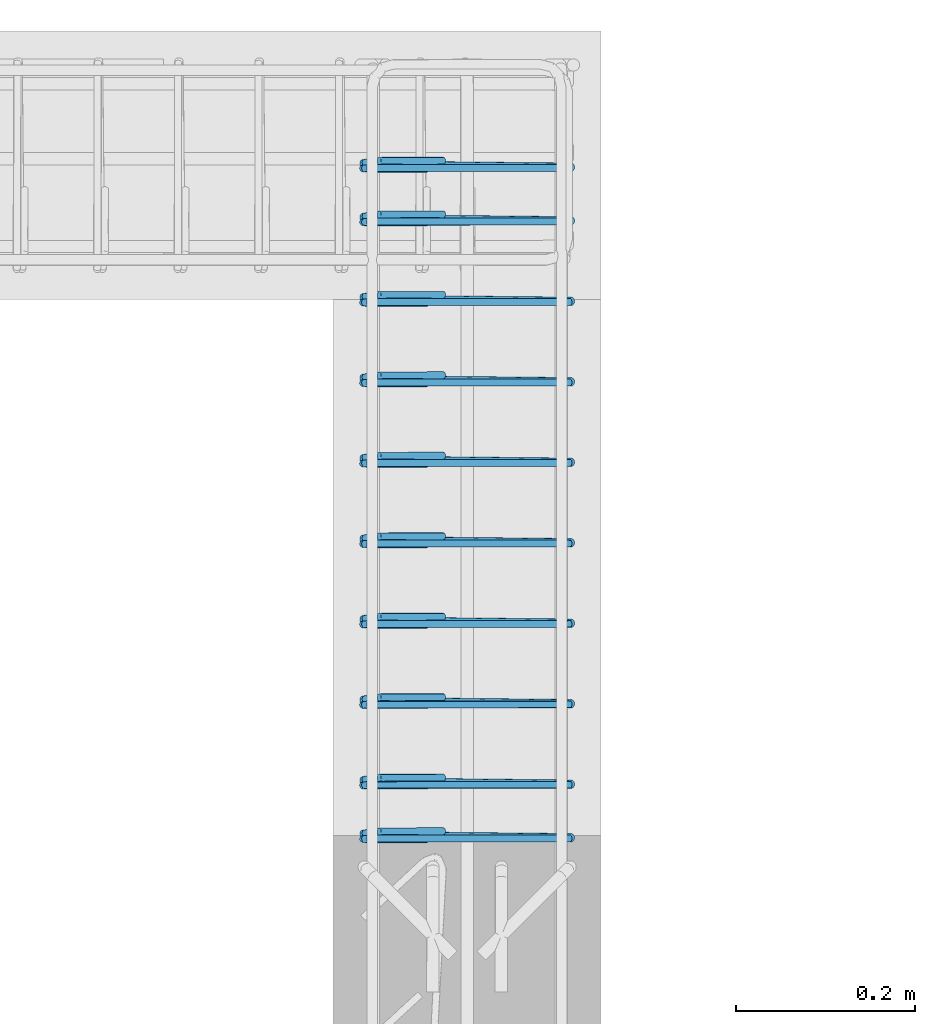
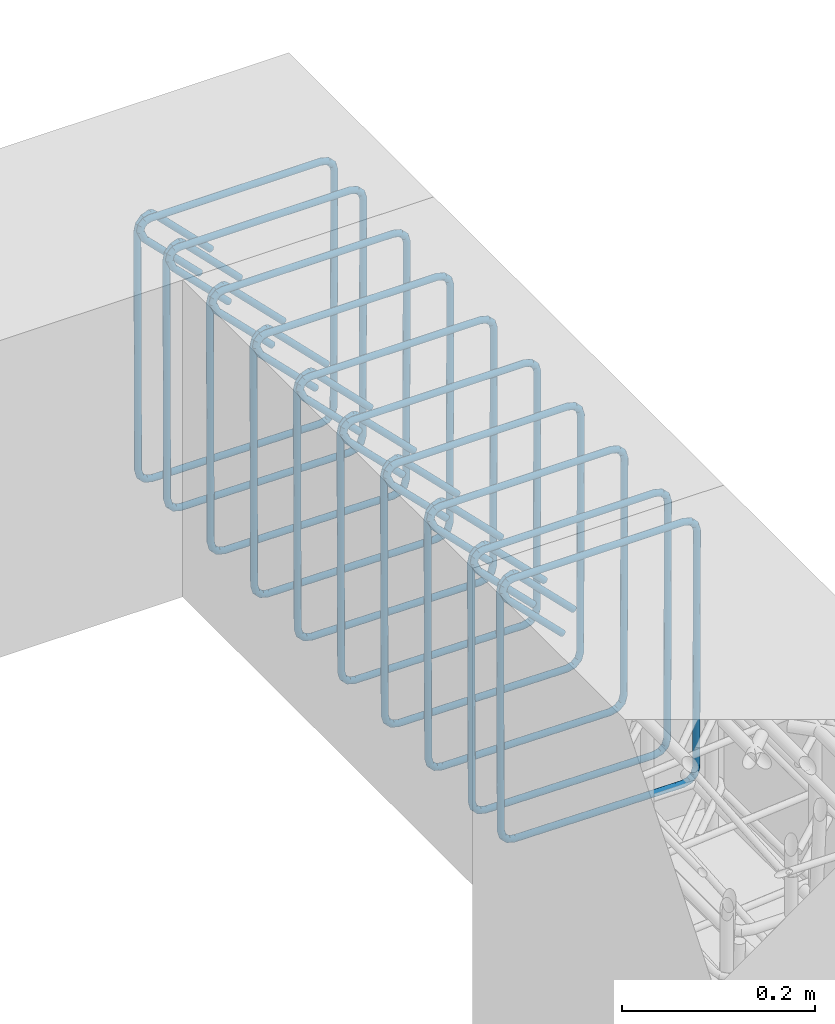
# One storey, part 24 of 24: 1 reinforcing bar.
"""IFC2X3 building model written with IfcOpenShell, lengths in metres."""

from ifc_helpers import new_model, entity, si_unit, direction, frame, origin, place, context, subcontext, project, spatial, shape, source, transform, mapped, element, save


model = new_model("IFC2X3")

# Units and contexts
model_context = context("Model", 3, precision=0.0, world=origin(), true_north=direction((0.0, 1.0)))
plan_context = context("Plan", 3, precision=0.0, world=origin(), true_north=direction((0.0, 1.0)))
body_context = subcontext(model_context, "Body", "Model", "MODEL_VIEW", scale=1.0)
ifc_project = project(units=[si_unit("LENGTHUNIT", "METRE"), si_unit("AREAUNIT", "SQUARE_METRE"), si_unit("VOLUMEUNIT", "CUBIC_METRE"), si_unit("PLANEANGLEUNIT", "RADIAN"), si_unit("THERMODYNAMICTEMPERATUREUNIT", "DEGREE_CELSIUS"), si_unit("FORCEUNIT", "NEWTON"), si_unit("MASSUNIT", "GRAM", prefix="KILO")], contexts=[model_context, plan_context])

# Site, building, storey
placement = place(None, origin())
site = spatial("IfcSite", under=ifc_project, at=placement, Name="Default Site", CompositionType="ELEMENT")
building = spatial("IfcBuilding", under=site, at=placement, Name="Default Building", CompositionType="ELEMENT")
storey_placement = place(placement, frame((0.0, 0.0, 3.3), z_axis=(1.0, 0.0, 0.0), x_axis=(0.0, 0.0, 1.0)))
storey = spatial("IfcBuildingStorey", under=building, at=storey_placement, Name="Piano 2", CompositionType="ELEMENT", Elevation=3.3)

# Reinforcing bar
shared_shape_1 = source(origin(), body_context, None, "AdvancedSweptSolid", [
    entity("IfcSweptDiskSolid", entity("IfcCompositeCurve", [entity("IfcCompositeCurveSegment", "CONTINUOUS", True, entity("IfcPolyline", [entity("IfcCartesianPoint", [0.0, 0.0, 0.0]), entity("IfcCartesianPoint", [-0.066019, 0.0, 0.066019]), entity("IfcCartesianPoint", [-0.070711, 0.000256, 0.07734]), entity("IfcCartesianPoint", [-0.069135, 0.000483, 0.083218]), entity("IfcCartesianPoint", [-0.064829, 0.000652, 0.087521]), entity("IfcCartesianPoint", [-0.058947, 0.000716, 0.089095]), entity("IfcCartesianPoint", [0.145289, 0.000831, 0.089095]), entity("IfcCartesianPoint", [0.153289, 0.000846, 0.086952]), entity("IfcCartesianPoint", [0.159146, 0.000878, 0.081096]), entity("IfcCartesianPoint", [0.161289, 0.000919, 0.073096]), entity("IfcCartesianPoint", [0.161289, 0.002406, -0.226906]), entity("IfcCartesianPoint", [0.159146, 0.002467, -0.234905]), entity("IfcCartesianPoint", [0.15329, 0.002556, -0.240761]), entity("IfcCartesianPoint", [0.145291, 0.002647, -0.242905]), entity("IfcCartesianPoint", [-0.054712, 0.004677, -0.242905]), entity("IfcCartesianPoint", [-0.062712, 0.004769, -0.240761]), entity("IfcCartesianPoint", [-0.068567, 0.004858, -0.234905]), entity("IfcCartesianPoint", [-0.070711, 0.004919, -0.226906]), entity("IfcCartesianPoint", [-0.070711, 0.006406, 0.073106]), entity("IfcCartesianPoint", [-0.068586, 0.006717, 0.081101]), entity("IfcCartesianPoint", [-0.062781, 0.00749, 0.086954]), entity("IfcCartesianPoint", [-0.05485, 0.008516, 0.089095]), entity("IfcCartesianPoint", [-0.052514, 0.008756, 0.088627]), entity("IfcCartesianPoint", [-0.050526, 0.008843, 0.087296]), entity("IfcCartesianPoint", [0.018385, 0.00897, 0.018385])]))], False), 0.004, 0.0, 0.0),
])
shared_shape_2 = source(origin(), body_context, None, "AdvancedSweptSolid", [
    entity("IfcSweptDiskSolid", entity("IfcCompositeCurve", [entity("IfcCompositeCurveSegment", "CONTINUOUS", True, entity("IfcPolyline", [entity("IfcCartesianPoint", [0.0, 0.0, 0.0]), entity("IfcCartesianPoint", [-0.066019, 0.0, 0.066019]), entity("IfcCartesianPoint", [-0.070711, 0.000256, 0.07734]), entity("IfcCartesianPoint", [-0.069135, 0.000483, 0.083218]), entity("IfcCartesianPoint", [-0.064829, 0.000652, 0.087521]), entity("IfcCartesianPoint", [-0.058947, 0.000716, 0.089095]), entity("IfcCartesianPoint", [0.145289, 0.000831, 0.089095]), entity("IfcCartesianPoint", [0.153289, 0.000846, 0.086952]), entity("IfcCartesianPoint", [0.159146, 0.000878, 0.081096]), entity("IfcCartesianPoint", [0.161289, 0.000919, 0.073096]), entity("IfcCartesianPoint", [0.161289, 0.002406, -0.226906]), entity("IfcCartesianPoint", [0.159146, 0.002467, -0.234905]), entity("IfcCartesianPoint", [0.15329, 0.002556, -0.240761]), entity("IfcCartesianPoint", [0.145291, 0.002647, -0.242905]), entity("IfcCartesianPoint", [-0.054712, 0.004677, -0.242905]), entity("IfcCartesianPoint", [-0.062712, 0.004769, -0.240761]), entity("IfcCartesianPoint", [-0.068567, 0.004858, -0.234905]), entity("IfcCartesianPoint", [-0.070711, 0.004919, -0.226906]), entity("IfcCartesianPoint", [-0.070711, 0.006406, 0.073106]), entity("IfcCartesianPoint", [-0.068586, 0.006717, 0.081101]), entity("IfcCartesianPoint", [-0.062781, 0.00749, 0.086954]), entity("IfcCartesianPoint", [-0.05485, 0.008516, 0.089095]), entity("IfcCartesianPoint", [-0.052514, 0.008756, 0.088627]), entity("IfcCartesianPoint", [-0.050526, 0.008843, 0.087296]), entity("IfcCartesianPoint", [0.018385, 0.00897, 0.018385])]))], False), 0.004, 0.0, 0.0),
])
shared_shape_3 = source(origin(), body_context, None, "AdvancedSweptSolid", [
    entity("IfcSweptDiskSolid", entity("IfcCompositeCurve", [entity("IfcCompositeCurveSegment", "CONTINUOUS", True, entity("IfcPolyline", [entity("IfcCartesianPoint", [0.0, 0.0, 0.0]), entity("IfcCartesianPoint", [-0.066019, 0.0, 0.066019]), entity("IfcCartesianPoint", [-0.070711, 0.000256, 0.07734]), entity("IfcCartesianPoint", [-0.069135, 0.000483, 0.083218]), entity("IfcCartesianPoint", [-0.064829, 0.000652, 0.087521]), entity("IfcCartesianPoint", [-0.058947, 0.000716, 0.089095]), entity("IfcCartesianPoint", [0.145289, 0.000831, 0.089095]), entity("IfcCartesianPoint", [0.153289, 0.000846, 0.086952]), entity("IfcCartesianPoint", [0.159146, 0.000878, 0.081096]), entity("IfcCartesianPoint", [0.161289, 0.000919, 0.073096]), entity("IfcCartesianPoint", [0.161289, 0.002406, -0.226906]), entity("IfcCartesianPoint", [0.159146, 0.002467, -0.234905]), entity("IfcCartesianPoint", [0.15329, 0.002556, -0.240761]), entity("IfcCartesianPoint", [0.145291, 0.002647, -0.242905]), entity("IfcCartesianPoint", [-0.054712, 0.004677, -0.242905]), entity("IfcCartesianPoint", [-0.062712, 0.004769, -0.240761]), entity("IfcCartesianPoint", [-0.068567, 0.004858, -0.234905]), entity("IfcCartesianPoint", [-0.070711, 0.004919, -0.226906]), entity("IfcCartesianPoint", [-0.070711, 0.006406, 0.073106]), entity("IfcCartesianPoint", [-0.068586, 0.006717, 0.081101]), entity("IfcCartesianPoint", [-0.062781, 0.00749, 0.086954]), entity("IfcCartesianPoint", [-0.05485, 0.008516, 0.089095]), entity("IfcCartesianPoint", [-0.052514, 0.008756, 0.088627]), entity("IfcCartesianPoint", [-0.050526, 0.008843, 0.087296]), entity("IfcCartesianPoint", [0.018385, 0.00897, 0.018385])]))], False), 0.004, 0.0, 0.0),
])
shared_shape_4 = source(origin(), body_context, None, "AdvancedSweptSolid", [
    entity("IfcSweptDiskSolid", entity("IfcCompositeCurve", [entity("IfcCompositeCurveSegment", "CONTINUOUS", True, entity("IfcPolyline", [entity("IfcCartesianPoint", [0.0, 0.0, 0.0]), entity("IfcCartesianPoint", [-0.066019, 0.0, 0.066019]), entity("IfcCartesianPoint", [-0.070711, 0.000256, 0.07734]), entity("IfcCartesianPoint", [-0.069135, 0.000483, 0.083218]), entity("IfcCartesianPoint", [-0.064829, 0.000652, 0.087521]), entity("IfcCartesianPoint", [-0.058947, 0.000716, 0.089095]), entity("IfcCartesianPoint", [0.145289, 0.000831, 0.089095]), entity("IfcCartesianPoint", [0.153289, 0.000846, 0.086952]), entity("IfcCartesianPoint", [0.159146, 0.000878, 0.081096]), entity("IfcCartesianPoint", [0.161289, 0.000919, 0.073096]), entity("IfcCartesianPoint", [0.161289, 0.002406, -0.226906]), entity("IfcCartesianPoint", [0.159146, 0.002467, -0.234905]), entity("IfcCartesianPoint", [0.15329, 0.002556, -0.240761]), entity("IfcCartesianPoint", [0.145291, 0.002647, -0.242905]), entity("IfcCartesianPoint", [-0.054712, 0.004677, -0.242905]), entity("IfcCartesianPoint", [-0.062712, 0.004769, -0.240761]), entity("IfcCartesianPoint", [-0.068567, 0.004858, -0.234905]), entity("IfcCartesianPoint", [-0.070711, 0.004919, -0.226906]), entity("IfcCartesianPoint", [-0.070711, 0.006406, 0.073106]), entity("IfcCartesianPoint", [-0.068586, 0.006717, 0.081101]), entity("IfcCartesianPoint", [-0.062781, 0.00749, 0.086954]), entity("IfcCartesianPoint", [-0.05485, 0.008516, 0.089095]), entity("IfcCartesianPoint", [-0.052514, 0.008756, 0.088627]), entity("IfcCartesianPoint", [-0.050526, 0.008843, 0.087296]), entity("IfcCartesianPoint", [0.018385, 0.00897, 0.018385])]))], False), 0.004, 0.0, 0.0),
])
shared_shape_5 = source(origin(), body_context, None, "AdvancedSweptSolid", [
    entity("IfcSweptDiskSolid", entity("IfcCompositeCurve", [entity("IfcCompositeCurveSegment", "CONTINUOUS", True, entity("IfcPolyline", [entity("IfcCartesianPoint", [0.0, 0.0, 0.0]), entity("IfcCartesianPoint", [-0.066019, 0.0, 0.066019]), entity("IfcCartesianPoint", [-0.070711, 0.000256, 0.07734]), entity("IfcCartesianPoint", [-0.069135, 0.000483, 0.083218]), entity("IfcCartesianPoint", [-0.064829, 0.000652, 0.087521]), entity("IfcCartesianPoint", [-0.058947, 0.000716, 0.089095]), entity("IfcCartesianPoint", [0.145289, 0.000831, 0.089095]), entity("IfcCartesianPoint", [0.153289, 0.000846, 0.086952]), entity("IfcCartesianPoint", [0.159146, 0.000878, 0.081096]), entity("IfcCartesianPoint", [0.161289, 0.000919, 0.073096]), entity("IfcCartesianPoint", [0.161289, 0.002406, -0.226906]), entity("IfcCartesianPoint", [0.159146, 0.002467, -0.234905]), entity("IfcCartesianPoint", [0.15329, 0.002556, -0.240761]), entity("IfcCartesianPoint", [0.145291, 0.002647, -0.242905]), entity("IfcCartesianPoint", [-0.054712, 0.004677, -0.242905]), entity("IfcCartesianPoint", [-0.062712, 0.004769, -0.240761]), entity("IfcCartesianPoint", [-0.068567, 0.004858, -0.234905]), entity("IfcCartesianPoint", [-0.070711, 0.004919, -0.226906]), entity("IfcCartesianPoint", [-0.070711, 0.006406, 0.073106]), entity("IfcCartesianPoint", [-0.068586, 0.006717, 0.081101]), entity("IfcCartesianPoint", [-0.062781, 0.00749, 0.086954]), entity("IfcCartesianPoint", [-0.05485, 0.008516, 0.089095]), entity("IfcCartesianPoint", [-0.052514, 0.008756, 0.088627]), entity("IfcCartesianPoint", [-0.050526, 0.008843, 0.087296]), entity("IfcCartesianPoint", [0.018385, 0.00897, 0.018385])]))], False), 0.004, 0.0, 0.0),
])
shared_shape_6 = source(origin(), body_context, None, "AdvancedSweptSolid", [
    entity("IfcSweptDiskSolid", entity("IfcCompositeCurve", [entity("IfcCompositeCurveSegment", "CONTINUOUS", True, entity("IfcPolyline", [entity("IfcCartesianPoint", [0.0, 0.0, 0.0]), entity("IfcCartesianPoint", [-0.066019, 0.0, 0.066019]), entity("IfcCartesianPoint", [-0.070711, 0.000256, 0.07734]), entity("IfcCartesianPoint", [-0.069135, 0.000483, 0.083218]), entity("IfcCartesianPoint", [-0.064829, 0.000652, 0.087521]), entity("IfcCartesianPoint", [-0.058947, 0.000716, 0.089095]), entity("IfcCartesianPoint", [0.145289, 0.000831, 0.089095]), entity("IfcCartesianPoint", [0.153289, 0.000846, 0.086952]), entity("IfcCartesianPoint", [0.159146, 0.000878, 0.081096]), entity("IfcCartesianPoint", [0.161289, 0.000919, 0.073096]), entity("IfcCartesianPoint", [0.161289, 0.002406, -0.226906]), entity("IfcCartesianPoint", [0.159146, 0.002467, -0.234905]), entity("IfcCartesianPoint", [0.15329, 0.002556, -0.240761]), entity("IfcCartesianPoint", [0.145291, 0.002647, -0.242905]), entity("IfcCartesianPoint", [-0.054712, 0.004677, -0.242905]), entity("IfcCartesianPoint", [-0.062712, 0.004769, -0.240761]), entity("IfcCartesianPoint", [-0.068567, 0.004858, -0.234905]), entity("IfcCartesianPoint", [-0.070711, 0.004919, -0.226906]), entity("IfcCartesianPoint", [-0.070711, 0.006406, 0.073106]), entity("IfcCartesianPoint", [-0.068586, 0.006717, 0.081101]), entity("IfcCartesianPoint", [-0.062781, 0.00749, 0.086954]), entity("IfcCartesianPoint", [-0.05485, 0.008516, 0.089095]), entity("IfcCartesianPoint", [-0.052514, 0.008756, 0.088627]), entity("IfcCartesianPoint", [-0.050526, 0.008843, 0.087296]), entity("IfcCartesianPoint", [0.018385, 0.00897, 0.018385])]))], False), 0.004, 0.0, 0.0),
])
shared_shape_7 = source(origin(), body_context, None, "AdvancedSweptSolid", [
    entity("IfcSweptDiskSolid", entity("IfcCompositeCurve", [entity("IfcCompositeCurveSegment", "CONTINUOUS", True, entity("IfcPolyline", [entity("IfcCartesianPoint", [0.0, 0.0, 0.0]), entity("IfcCartesianPoint", [-0.066019, 0.0, 0.066019]), entity("IfcCartesianPoint", [-0.070711, 0.000256, 0.07734]), entity("IfcCartesianPoint", [-0.069135, 0.000483, 0.083218]), entity("IfcCartesianPoint", [-0.064829, 0.000652, 0.087521]), entity("IfcCartesianPoint", [-0.058947, 0.000716, 0.089095]), entity("IfcCartesianPoint", [0.145289, 0.000831, 0.089095]), entity("IfcCartesianPoint", [0.153289, 0.000846, 0.086952]), entity("IfcCartesianPoint", [0.159146, 0.000878, 0.081096]), entity("IfcCartesianPoint", [0.161289, 0.000919, 0.073096]), entity("IfcCartesianPoint", [0.161289, 0.002406, -0.226906]), entity("IfcCartesianPoint", [0.159146, 0.002467, -0.234905]), entity("IfcCartesianPoint", [0.15329, 0.002556, -0.240761]), entity("IfcCartesianPoint", [0.145291, 0.002647, -0.242905]), entity("IfcCartesianPoint", [-0.054712, 0.004677, -0.242905]), entity("IfcCartesianPoint", [-0.062712, 0.004769, -0.240761]), entity("IfcCartesianPoint", [-0.068567, 0.004858, -0.234905]), entity("IfcCartesianPoint", [-0.070711, 0.004919, -0.226906]), entity("IfcCartesianPoint", [-0.070711, 0.006406, 0.073106]), entity("IfcCartesianPoint", [-0.068586, 0.006717, 0.081101]), entity("IfcCartesianPoint", [-0.062781, 0.00749, 0.086954]), entity("IfcCartesianPoint", [-0.05485, 0.008516, 0.089095]), entity("IfcCartesianPoint", [-0.052514, 0.008756, 0.088627]), entity("IfcCartesianPoint", [-0.050526, 0.008843, 0.087296]), entity("IfcCartesianPoint", [0.018385, 0.00897, 0.018385])]))], False), 0.004, 0.0, 0.0),
])
shared_shape_8 = source(origin(), body_context, None, "AdvancedSweptSolid", [
    entity("IfcSweptDiskSolid", entity("IfcCompositeCurve", [entity("IfcCompositeCurveSegment", "CONTINUOUS", True, entity("IfcPolyline", [entity("IfcCartesianPoint", [0.0, 0.0, 0.0]), entity("IfcCartesianPoint", [-0.066019, 0.0, 0.066019]), entity("IfcCartesianPoint", [-0.070711, 0.000256, 0.07734]), entity("IfcCartesianPoint", [-0.069135, 0.000483, 0.083218]), entity("IfcCartesianPoint", [-0.064829, 0.000652, 0.087521]), entity("IfcCartesianPoint", [-0.058947, 0.000716, 0.089095]), entity("IfcCartesianPoint", [0.145289, 0.000831, 0.089095]), entity("IfcCartesianPoint", [0.153289, 0.000846, 0.086952]), entity("IfcCartesianPoint", [0.159146, 0.000878, 0.081096]), entity("IfcCartesianPoint", [0.161289, 0.000919, 0.073096]), entity("IfcCartesianPoint", [0.161289, 0.002406, -0.226906]), entity("IfcCartesianPoint", [0.159146, 0.002467, -0.234905]), entity("IfcCartesianPoint", [0.15329, 0.002556, -0.240761]), entity("IfcCartesianPoint", [0.145291, 0.002647, -0.242905]), entity("IfcCartesianPoint", [-0.054712, 0.004677, -0.242905]), entity("IfcCartesianPoint", [-0.062712, 0.004769, -0.240761]), entity("IfcCartesianPoint", [-0.068567, 0.004858, -0.234905]), entity("IfcCartesianPoint", [-0.070711, 0.004919, -0.226906]), entity("IfcCartesianPoint", [-0.070711, 0.006406, 0.073106]), entity("IfcCartesianPoint", [-0.068586, 0.006717, 0.081101]), entity("IfcCartesianPoint", [-0.062781, 0.00749, 0.086954]), entity("IfcCartesianPoint", [-0.05485, 0.008516, 0.089095]), entity("IfcCartesianPoint", [-0.052514, 0.008756, 0.088627]), entity("IfcCartesianPoint", [-0.050526, 0.008843, 0.087296]), entity("IfcCartesianPoint", [0.018385, 0.00897, 0.018385])]))], False), 0.004, 0.0, 0.0),
])
shared_shape_9 = source(origin(), body_context, None, "AdvancedSweptSolid", [
    entity("IfcSweptDiskSolid", entity("IfcCompositeCurve", [entity("IfcCompositeCurveSegment", "CONTINUOUS", True, entity("IfcPolyline", [entity("IfcCartesianPoint", [0.0, 0.0, 0.0]), entity("IfcCartesianPoint", [-0.066019, 0.0, 0.066019]), entity("IfcCartesianPoint", [-0.070711, 0.000256, 0.07734]), entity("IfcCartesianPoint", [-0.069135, 0.000483, 0.083218]), entity("IfcCartesianPoint", [-0.064829, 0.000652, 0.087521]), entity("IfcCartesianPoint", [-0.058947, 0.000716, 0.089095]), entity("IfcCartesianPoint", [0.145289, 0.000831, 0.089095]), entity("IfcCartesianPoint", [0.153289, 0.000846, 0.086952]), entity("IfcCartesianPoint", [0.159146, 0.000878, 0.081096]), entity("IfcCartesianPoint", [0.161289, 0.000919, 0.073096]), entity("IfcCartesianPoint", [0.161289, 0.002406, -0.226906]), entity("IfcCartesianPoint", [0.159146, 0.002467, -0.234905]), entity("IfcCartesianPoint", [0.15329, 0.002556, -0.240761]), entity("IfcCartesianPoint", [0.145291, 0.002647, -0.242905]), entity("IfcCartesianPoint", [-0.054712, 0.004677, -0.242905]), entity("IfcCartesianPoint", [-0.062712, 0.004769, -0.240761]), entity("IfcCartesianPoint", [-0.068567, 0.004858, -0.234905]), entity("IfcCartesianPoint", [-0.070711, 0.004919, -0.226906]), entity("IfcCartesianPoint", [-0.070711, 0.006406, 0.073106]), entity("IfcCartesianPoint", [-0.068586, 0.006717, 0.081101]), entity("IfcCartesianPoint", [-0.062781, 0.00749, 0.086954]), entity("IfcCartesianPoint", [-0.05485, 0.008516, 0.089095]), entity("IfcCartesianPoint", [-0.052514, 0.008756, 0.088627]), entity("IfcCartesianPoint", [-0.050526, 0.008843, 0.087296]), entity("IfcCartesianPoint", [0.018385, 0.00897, 0.018385])]))], False), 0.004, 0.0, 0.0),
])
shared_shape_10 = source(origin(), body_context, None, "AdvancedSweptSolid", [
    entity("IfcSweptDiskSolid", entity("IfcCompositeCurve", [entity("IfcCompositeCurveSegment", "CONTINUOUS", True, entity("IfcPolyline", [entity("IfcCartesianPoint", [0.0, 0.0, 0.0]), entity("IfcCartesianPoint", [-0.066019, 0.0, 0.066019]), entity("IfcCartesianPoint", [-0.070711, 0.000256, 0.07734]), entity("IfcCartesianPoint", [-0.069135, 0.000483, 0.083218]), entity("IfcCartesianPoint", [-0.064829, 0.000652, 0.087521]), entity("IfcCartesianPoint", [-0.058947, 0.000716, 0.089095]), entity("IfcCartesianPoint", [0.145289, 0.000831, 0.089095]), entity("IfcCartesianPoint", [0.153289, 0.000846, 0.086952]), entity("IfcCartesianPoint", [0.159146, 0.000878, 0.081096]), entity("IfcCartesianPoint", [0.161289, 0.000919, 0.073096]), entity("IfcCartesianPoint", [0.161289, 0.002406, -0.226906]), entity("IfcCartesianPoint", [0.159146, 0.002467, -0.234905]), entity("IfcCartesianPoint", [0.15329, 0.002556, -0.240761]), entity("IfcCartesianPoint", [0.145291, 0.002647, -0.242905]), entity("IfcCartesianPoint", [-0.054712, 0.004677, -0.242905]), entity("IfcCartesianPoint", [-0.062712, 0.004769, -0.240761]), entity("IfcCartesianPoint", [-0.068567, 0.004858, -0.234905]), entity("IfcCartesianPoint", [-0.070711, 0.004919, -0.226906]), entity("IfcCartesianPoint", [-0.070711, 0.006406, 0.073106]), entity("IfcCartesianPoint", [-0.068586, 0.006717, 0.081101]), entity("IfcCartesianPoint", [-0.062781, 0.00749, 0.086954]), entity("IfcCartesianPoint", [-0.05485, 0.008516, 0.089095]), entity("IfcCartesianPoint", [-0.052514, 0.008756, 0.088627]), entity("IfcCartesianPoint", [-0.050526, 0.008843, 0.087296]), entity("IfcCartesianPoint", [0.018385, 0.00897, 0.018385])]))], False), 0.004, 0.0, 0.0),
])
element("IfcReinforcingBar", 1, at=placement, inside=storey, Name="Arm Staffa; Trave:12 [Piano:2]", BarLength=13.297797, BarRole="SHEAR", BarSurface="TEXTURED", NominalDiameter=0.008, shapes=[
    shape(body_context, None, "MappedRepresentation", [mapped(shared_shape_1, transform((16.954711, 4.246, 1.183905))), mapped(shared_shape_2, transform((16.954711, 4.306, 1.183905))), mapped(shared_shape_3, transform((16.954711, 4.396, 1.183905))), mapped(shared_shape_4, transform((16.954711, 4.486, 1.183905))), mapped(shared_shape_5, transform((16.954711, 4.576, 1.183905))), mapped(shared_shape_6, transform((16.954711, 4.666, 1.183905))), mapped(shared_shape_7, transform((16.954711, 4.756, 1.183905))), mapped(shared_shape_8, transform((16.954711, 4.846, 1.183905))), mapped(shared_shape_9, transform((16.954711, 4.936, 1.183905))), mapped(shared_shape_10, transform((16.954711, 4.996, 1.183905)))]),
])

save(model, "model.ifc")
